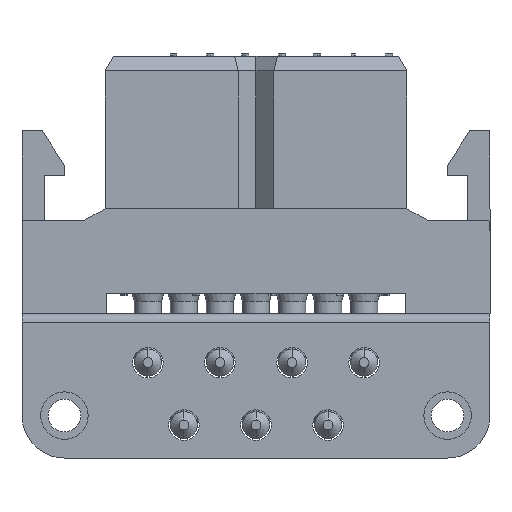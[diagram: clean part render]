
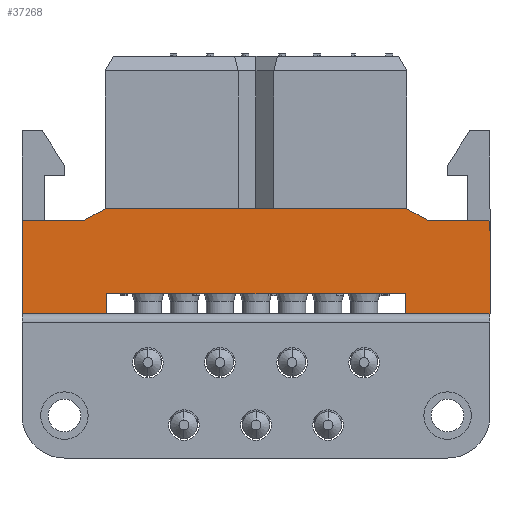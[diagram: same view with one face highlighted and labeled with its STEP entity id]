
A CAD part, front view. The second image highlights one B-rep face of the part: STEP entity #37268.
In plain terms, the highlighted planar face has unit normal (0, -1, 0).
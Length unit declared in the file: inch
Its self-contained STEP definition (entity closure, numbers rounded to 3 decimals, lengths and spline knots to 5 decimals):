
#26 = VECTOR ( 'NONE', #11049, 39.37008 ) ;
#30 = LINE ( 'NONE', #23200, #28490 ) ;
#42 = VECTOR ( 'NONE', #34853, 39.37008 ) ;
#359 = CARTESIAN_POINT ( 'NONE',  ( -0.34646, -0.21654, -0.24409 ) ) ;
#504 = LINE ( 'NONE', #27590, #26 ) ;
#583 = ORIENTED_EDGE ( 'NONE', *, *, #15460, .F. ) ;
#890 = CARTESIAN_POINT ( 'NONE',  ( -0.34646, -0.21654, -0.19685 ) ) ;
#1062 = VECTOR ( 'NONE', #26951, 39.37008 ) ;
#1421 = VECTOR ( 'NONE', #18320, 39.37008 ) ;
#1595 = EDGE_CURVE ( 'NONE', #8582, #31088, #16686, .T. ) ;
#2346 = LINE ( 'NONE', #38133, #15775 ) ;
#4341 = PLANE ( 'NONE',  #19130 ) ;
#4633 = LINE ( 'NONE', #890, #42861 ) ;
#4649 = EDGE_CURVE ( 'NONE', #19379, #35569, #4633, .T. ) ;
#5962 = CARTESIAN_POINT ( 'NONE',  ( 0.35039, -0.21654, 0. ) ) ;
#7135 = CARTESIAN_POINT ( 'NONE',  ( 0.54331, -0.21654, -0.24409 ) ) ;
#7499 = DIRECTION ( 'NONE',  ( 0., -1., 0. ) ) ;
#7580 = LINE ( 'NONE', #28183, #1421 ) ;
#7637 = DIRECTION ( 'NONE',  ( 0., 0., -1. ) ) ;
#8229 = ORIENTED_EDGE ( 'NONE', *, *, #26318, .F. ) ;
#8582 = VERTEX_POINT ( 'NONE', #16333 ) ;
#9244 = DIRECTION ( 'NONE',  ( 0.873, 0., 0.489 ) ) ;
#9549 = EDGE_CURVE ( 'NONE', #26122, #8582, #31946, .T. ) ;
#10885 = VERTEX_POINT ( 'NONE', #31927 ) ;
#11049 = DIRECTION ( 'NONE',  ( 0., 0., 1. ) ) ;
#12026 = VECTOR ( 'NONE', #20756, 39.37008 ) ;
#12034 = EDGE_LOOP ( 'NONE', ( #36302, #29086, #37753, #15861, #36872, #24806, #31001, #583, #27246, #40941, #8229, #39479 ) ) ;
#12149 = CARTESIAN_POINT ( 'NONE',  ( -0.34646, -0.21654, -0.24409 ) ) ;
#12522 = CARTESIAN_POINT ( 'NONE',  ( 0.34646, -0.21654, -0.24409 ) ) ;
#13116 = VECTOR ( 'NONE', #41659, 39.37008 ) ;
#13867 = CARTESIAN_POINT ( 'NONE',  ( -0.54331, -0.21654, -0.24409 ) ) ;
#14940 = EDGE_CURVE ( 'NONE', #19639, #41316, #21757, .T. ) ;
#14945 = EDGE_CURVE ( 'NONE', #33185, #28777, #30, .T. ) ;
#15333 = CARTESIAN_POINT ( 'NONE',  ( 0.54331, -0.21654, -0.24409 ) ) ;
#15460 = EDGE_CURVE ( 'NONE', #28695, #10885, #39279, .T. ) ;
#15574 = CARTESIAN_POINT ( 'NONE',  ( 0.54331, -0.21654, -0.24409 ) ) ;
#15775 = VECTOR ( 'NONE', #31108, 39.37008 ) ;
#15861 = ORIENTED_EDGE ( 'NONE', *, *, #1595, .F. ) ;
#16333 = CARTESIAN_POINT ( 'NONE',  ( -0.35039, -0.21654, 0. ) ) ;
#16686 = LINE ( 'NONE', #27124, #12026 ) ;
#17394 = CARTESIAN_POINT ( 'NONE',  ( 0.54331, -0.21654, -0.02756 ) ) ;
#18320 = DIRECTION ( 'NONE',  ( 0., 0., 1. ) ) ;
#18688 = DIRECTION ( 'NONE',  ( 0.873, 0., -0.489 ) ) ;
#18817 = EDGE_CURVE ( 'NONE', #10885, #20217, #504, .T. ) ;
#18967 = VECTOR ( 'NONE', #9244, 39.37008 ) ;
#19130 = AXIS2_PLACEMENT_3D ( 'NONE', #23559, #7499, #7637 ) ;
#19379 = VERTEX_POINT ( 'NONE', #33808 ) ;
#19463 = CARTESIAN_POINT ( 'NONE',  ( -0.34646, -0.21654, -0.19685 ) ) ;
#19639 = VERTEX_POINT ( 'NONE', #15574 ) ;
#20217 = VERTEX_POINT ( 'NONE', #29976 ) ;
#20756 = DIRECTION ( 'NONE',  ( 1., 0., 0. ) ) ;
#21757 = LINE ( 'NONE', #7135, #1062 ) ;
#22846 = EDGE_CURVE ( 'NONE', #20217, #26122, #2346, .T. ) ;
#23200 = CARTESIAN_POINT ( 'NONE',  ( 0.49213, -0.21654, -0.02756 ) ) ;
#23559 = CARTESIAN_POINT ( 'NONE',  ( 0., -0.21654, 0. ) ) ;
#24806 = ORIENTED_EDGE ( 'NONE', *, *, #22846, .F. ) ;
#25335 = CARTESIAN_POINT ( 'NONE',  ( 0.39961, -0.21654, -0.02756 ) ) ;
#26122 = VERTEX_POINT ( 'NONE', #26730 ) ;
#26318 = EDGE_CURVE ( 'NONE', #41316, #19379, #7580, .T. ) ;
#26396 = LINE ( 'NONE', #15333, #42 ) ;
#26730 = CARTESIAN_POINT ( 'NONE',  ( -0.39961, -0.21654, -0.02756 ) ) ;
#26951 = DIRECTION ( 'NONE',  ( -1., 0., 0. ) ) ;
#27124 = CARTESIAN_POINT ( 'NONE',  ( 0.35039, -0.21654, 0. ) ) ;
#27246 = ORIENTED_EDGE ( 'NONE', *, *, #36076, .F. ) ;
#27590 = CARTESIAN_POINT ( 'NONE',  ( -0.54331, -0.21654, -0.24409 ) ) ;
#28089 = LINE ( 'NONE', #25335, #34283 ) ;
#28183 = CARTESIAN_POINT ( 'NONE',  ( 0.34646, -0.21654, -0.24409 ) ) ;
#28490 = VECTOR ( 'NONE', #36053, 39.37008 ) ;
#28695 = VERTEX_POINT ( 'NONE', #359 ) ;
#28777 = VERTEX_POINT ( 'NONE', #17394 ) ;
#29086 = ORIENTED_EDGE ( 'NONE', *, *, #14945, .F. ) ;
#29092 = EDGE_CURVE ( 'NONE', #31088, #33185, #28089, .T. ) ;
#29103 = FACE_OUTER_BOUND ( 'NONE', #12034, .T. ) ;
#29976 = CARTESIAN_POINT ( 'NONE',  ( -0.54331, -0.21654, -0.02756 ) ) ;
#30988 = EDGE_CURVE ( 'NONE', #28777, #19639, #26396, .T. ) ;
#31001 = ORIENTED_EDGE ( 'NONE', *, *, #18817, .F. ) ;
#31088 = VERTEX_POINT ( 'NONE', #5962 ) ;
#31108 = DIRECTION ( 'NONE',  ( 1., 0., 0. ) ) ;
#31261 = LINE ( 'NONE', #12149, #13116 ) ;
#31927 = CARTESIAN_POINT ( 'NONE',  ( -0.54331, -0.21654, -0.24409 ) ) ;
#31946 = LINE ( 'NONE', #42774, #18967 ) ;
#33185 = VERTEX_POINT ( 'NONE', #39341 ) ;
#33808 = CARTESIAN_POINT ( 'NONE',  ( 0.34646, -0.21654, -0.19685 ) ) ;
#33971 = DIRECTION ( 'NONE',  ( -1., 0., 0. ) ) ;
#34283 = VECTOR ( 'NONE', #18688, 39.37008 ) ;
#34853 = DIRECTION ( 'NONE',  ( 0., 0., -1. ) ) ;
#35569 = VERTEX_POINT ( 'NONE', #19463 ) ;
#36053 = DIRECTION ( 'NONE',  ( 1., 0., 0. ) ) ;
#36076 = EDGE_CURVE ( 'NONE', #35569, #28695, #31261, .T. ) ;
#36143 = DIRECTION ( 'NONE',  ( -1., 0., 0. ) ) ;
#36302 = ORIENTED_EDGE ( 'NONE', *, *, #30988, .F. ) ;
#36872 = ORIENTED_EDGE ( 'NONE', *, *, #9549, .F. ) ;
#37268 = ADVANCED_FACE ( 'NONE', ( #29103 ), #4341, .T. ) ;
#37753 = ORIENTED_EDGE ( 'NONE', *, *, #29092, .F. ) ;
#38133 = CARTESIAN_POINT ( 'NONE',  ( -0.49213, -0.21654, -0.02756 ) ) ;
#39279 = LINE ( 'NONE', #13867, #40300 ) ;
#39341 = CARTESIAN_POINT ( 'NONE',  ( 0.39961, -0.21654, -0.02756 ) ) ;
#39479 = ORIENTED_EDGE ( 'NONE', *, *, #14940, .F. ) ;
#40300 = VECTOR ( 'NONE', #36143, 39.37008 ) ;
#40941 = ORIENTED_EDGE ( 'NONE', *, *, #4649, .F. ) ;
#41316 = VERTEX_POINT ( 'NONE', #12522 ) ;
#41659 = DIRECTION ( 'NONE',  ( 0., 0., -1. ) ) ;
#42774 = CARTESIAN_POINT ( 'NONE',  ( -0.39961, -0.21654, -0.02756 ) ) ;
#42861 = VECTOR ( 'NONE', #33971, 39.37008 ) ;
